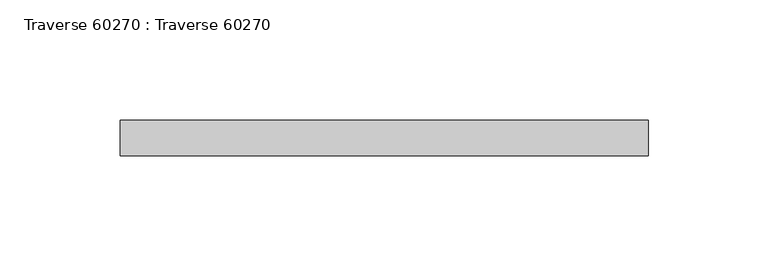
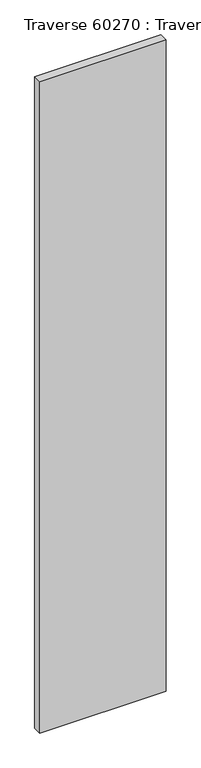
"""IFC4 building model written with IfcOpenShell, lengths in millimetres: beam geometry, Traverse 60270 : Traverse 60270."""

from ifc_helpers import new_model, si_unit, frame, origin, place, context, project, spatial, polyline, outline, extrude, source, transform, mapped, element, save


def traverse_60270_traverse_60270_47cd2858(model_context):
    return source(origin(), model_context, "Body", "SweptSolid", [
        extrude(outline(polyline([(109.9999999, -725.55), (109.9999999, -740.55), (-110.0000001, -740.55), (-110.0000001, -725.55), (109.9999999, -725.55)])), frame((0.0, 0.0, 6830.14), z_axis=(0.0, 0.0, 1.0), x_axis=(1.0, 0.0, 0.0)), (0.0, 0.0, 1.0), 1200.0),
    ])


if __name__ == "__main__":
    model = new_model("IFC4")
    model_context = context("Model", 3, world=origin())
    ifc_project = project(units=[si_unit("LENGTHUNIT", "METRE", prefix="MILLI")], contexts=[model_context])
    site = spatial("IfcSite", under=ifc_project)
    building = spatial("IfcBuilding", under=site)
    placement = place(None, origin())
    traverse_60270_traverse_60270_shape = traverse_60270_traverse_60270_47cd2858(model_context)
    element("IfcBeam", 1, ObjectType="Traverse 60270 : Traverse 60270", at=placement, inside=building, context=model_context, shape_type="MappedRepresentation", body=[
        mapped(traverse_60270_traverse_60270_shape, transform((0.0, 0.0, 0.0), x_axis=(1.0, 0.0, 0.0), y_axis=(0.0, 1.0, 0.0), z_axis=(0.0, 0.0, 1.0))),
    ])
    save(model, "model.ifc")
